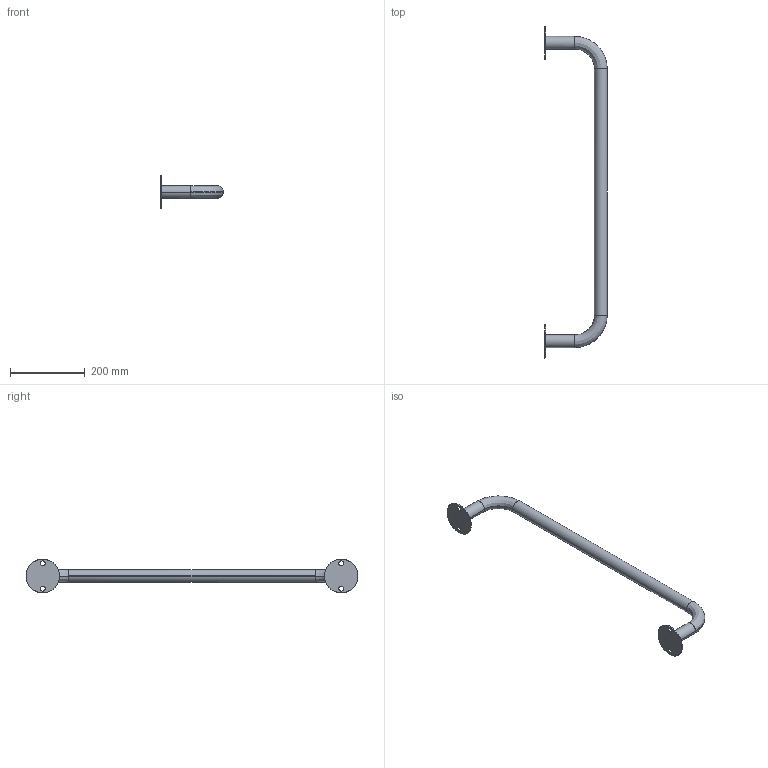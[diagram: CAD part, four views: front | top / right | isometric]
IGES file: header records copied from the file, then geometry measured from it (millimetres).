
Start section:  PTC IGES file: 52351299.igs
Global section: file name: 52351299.igs; native system: Creo Parametric by PTC Inc.; preprocessor: 2022162; author: wep; organization: Unknown; date: 20250721.083110; units: millimetre
Bounding box: 167 x 889.98 x 90 mm (x, y, z)
Surface area: 134676.8 mm2 (no closed solid volume)
Topology: 0 solids, 0 shells, 26 faces, 116 edges, 116 vertices
Faces by surface type: revolution 22, bspline 4
